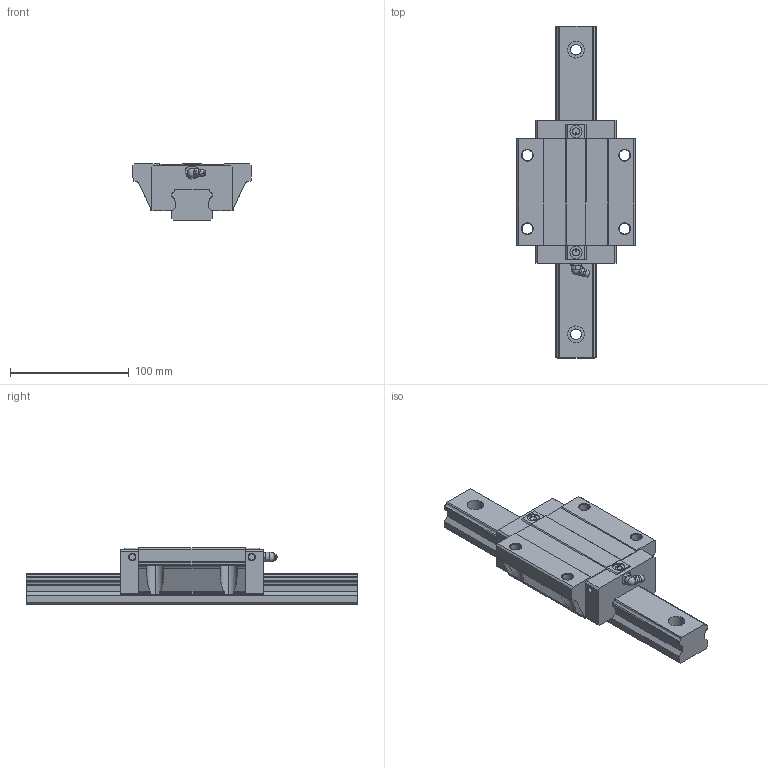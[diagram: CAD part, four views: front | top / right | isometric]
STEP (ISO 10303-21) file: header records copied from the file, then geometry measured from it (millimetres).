
FILE_DESCRIPTION((''),'1');
FILE_NAME(' ',' ',(''),(''),'ACIS Interop R16','Kubotek KeyCreator V6.5.2 (0407)',' ');
FILE_SCHEMA(('CONFIG_CONTROL_DESIGN'));
Length unit declared in the file: millimetre
Products named in the file (3): 1; 2; 3
Bounding box: 100 x 280 x 48 mm (x, y, z)
Volume: 531106.5 mm3; surface area: 82619.1 mm2
Topology: 3 solids, 3 shells, 272 faces, 727 edges, 475 vertices
Faces by surface type: plane 141, cylinder 94, cone 18, torus 10, sphere 7, bspline 2
Entity records: 8864 total; most frequent: CARTESIAN_POINT 1747, DIRECTION 1500, ORIENTED_EDGE 1442, EDGE_CURVE 721, AXIS2_PLACEMENT_3D 534, VERTEX_POINT 475, LINE 432, VECTOR 432
